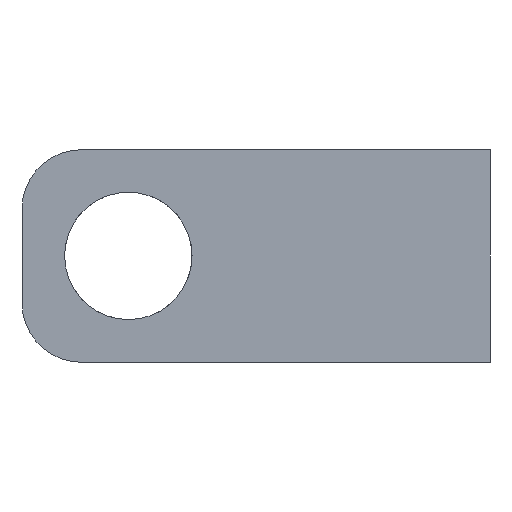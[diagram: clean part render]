
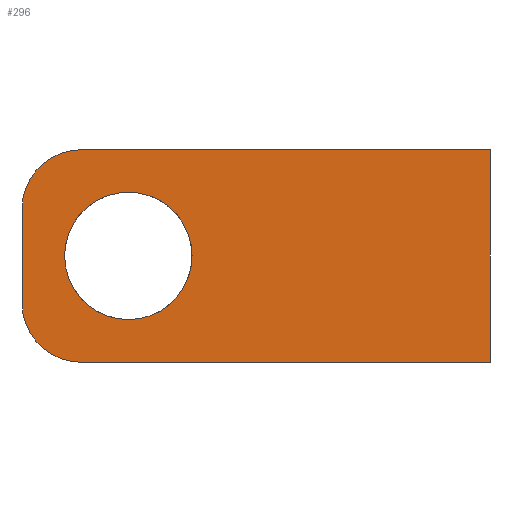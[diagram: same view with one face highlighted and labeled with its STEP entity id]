
A CAD part, front view. The second image highlights one B-rep face of the part: STEP entity #296.
In plain terms, the highlighted planar face has unit normal (0, -1, 0).
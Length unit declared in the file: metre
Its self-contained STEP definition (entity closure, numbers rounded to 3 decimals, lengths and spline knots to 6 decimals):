
#28=LINE('',#470,#52);
#30=LINE('',#478,#54);
#31=LINE('',#480,#55);
#32=LINE('',#482,#56);
#52=VECTOR('',#375,1.);
#54=VECTOR('',#383,1.);
#55=VECTOR('',#384,1.);
#56=VECTOR('',#385,1.);
#82=ORIENTED_EDGE('',*,*,#163,.F.);
#83=ORIENTED_EDGE('',*,*,#161,.T.);
#84=ORIENTED_EDGE('',*,*,#164,.T.);
#85=ORIENTED_EDGE('',*,*,#165,.F.);
#86=ORIENTED_EDGE('',*,*,#166,.F.);
#87=ORIENTED_EDGE('',*,*,#167,.T.);
#88=ORIENTED_EDGE('',*,*,#168,.T.);
#161=EDGE_CURVE('',#202,#201,#28,.T.);
#163=EDGE_CURVE('',#203,#203,#225,.T.);
#164=EDGE_CURVE('',#201,#204,#226,.T.);
#165=EDGE_CURVE('',#205,#204,#30,.T.);
#166=EDGE_CURVE('',#206,#205,#31,.T.);
#167=EDGE_CURVE('',#206,#207,#32,.T.);
#168=EDGE_CURVE('',#207,#202,#227,.T.);
#201=VERTEX_POINT('',#469);
#202=VERTEX_POINT('',#471);
#203=VERTEX_POINT('',#475);
#204=VERTEX_POINT('',#477);
#205=VERTEX_POINT('',#479);
#206=VERTEX_POINT('',#481);
#207=VERTEX_POINT('',#483);
#225=CIRCLE('',#330,0.00153);
#226=CIRCLE('',#331,0.001431);
#227=CIRCLE('',#332,0.001431);
#240=EDGE_LOOP('',(#82));
#241=EDGE_LOOP('',(#83,#84,#85,#86,#87,#88));
#264=FACE_BOUND('',#240,.T.);
#265=FACE_BOUND('',#241,.T.);
#288=PLANE('',#329);
#296=ADVANCED_FACE('',(#264,#265),#288,.T.);
#329=AXIS2_PLACEMENT_3D('',#473,#377,#378);
#330=AXIS2_PLACEMENT_3D('',#474,#379,#380);
#331=AXIS2_PLACEMENT_3D('',#476,#381,#382);
#332=AXIS2_PLACEMENT_3D('',#484,#386,#387);
#375=DIRECTION('',(0.,0.,-1.));
#377=DIRECTION('',(0.,-1.,0.));
#378=DIRECTION('',(0.,0.,-1.));
#379=DIRECTION('',(0.,-1.,0.));
#380=DIRECTION('',(0.,0.,-1.));
#381=DIRECTION('',(0.,-1.,0.));
#382=DIRECTION('',(0.,0.,-1.));
#383=DIRECTION('',(-1.,0.,0.));
#384=DIRECTION('',(0.,0.,-1.));
#385=DIRECTION('',(-1.,0.,0.));
#386=DIRECTION('',(0.,-1.,0.));
#387=DIRECTION('',(0.,0.,-1.));
#469=CARTESIAN_POINT('',(0.096489,0.,0.001431));
#470=CARTESIAN_POINT('',(0.096489,0.,0.005109));
#471=CARTESIAN_POINT('',(0.096489,0.,0.003679));
#473=CARTESIAN_POINT('',(0.10211,0.,0.005109));
#474=CARTESIAN_POINT('',(0.099043,0.,0.002557));
#475=CARTESIAN_POINT('',(0.099043,0.,0.001027));
#476=CARTESIAN_POINT('',(0.097919,0.,0.001431));
#477=CARTESIAN_POINT('',(0.097919,0.,0.));
#478=CARTESIAN_POINT('',(0.10211,0.,0.));
#479=CARTESIAN_POINT('',(0.10773,0.,0.));
#480=CARTESIAN_POINT('',(0.10773,0.,0.005109));
#481=CARTESIAN_POINT('',(0.10773,0.,0.005109));
#482=CARTESIAN_POINT('',(0.10211,0.,0.005109));
#483=CARTESIAN_POINT('',(0.097919,0.,0.005109));
#484=CARTESIAN_POINT('',(0.097919,0.,0.003679));
